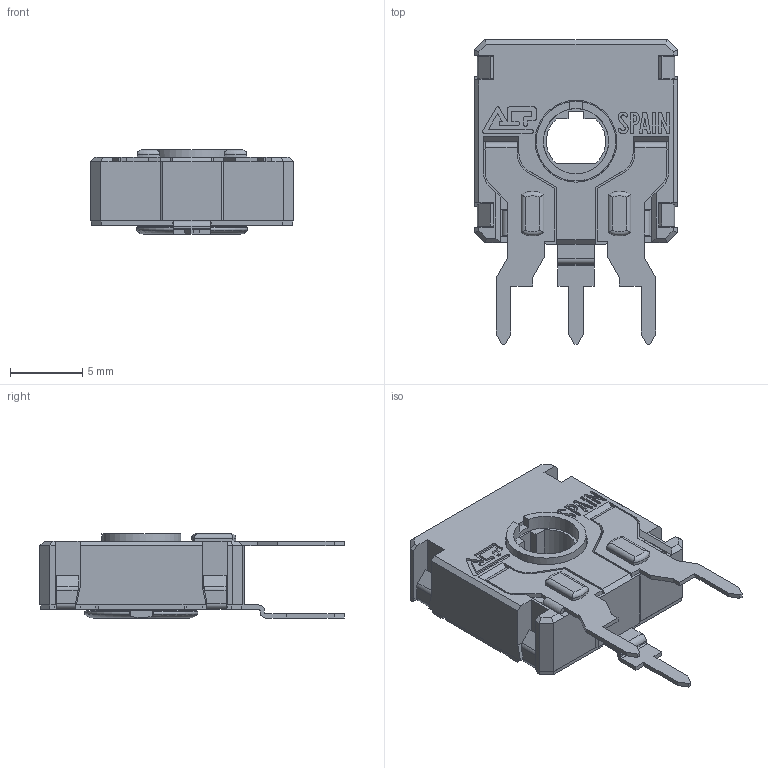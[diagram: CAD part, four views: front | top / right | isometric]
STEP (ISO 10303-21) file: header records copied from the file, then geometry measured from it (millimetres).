
FILE_DESCRIPTION(/* description */ (''),/* implementation_level */ '2;1');
FILE_NAME(/* name */ 'C:\Users\CEM\Desktop\ENVIAR\TRANSICION 3D CATALOGOS\CS14TH5.stp',/* time_stamp */ '2025-10-24T17:50:08+02:00',/* author */ ('CEM'),/* organization */ (''),/* preprocessor_version */ 'ST-DEVELOPER v17',/* originating_system */ 'Autodesk Inventor 2018',/* authorisation */ '');
FILE_SCHEMA (('AUTOMOTIVE_DESIGN { 1 0 10303 214 3 1 1 }'));
Length unit declared in the file: millimetre
Products named in the file (1): CS14TH5
Bounding box: 14 x 21 x 5.8 mm (x, y, z)
Volume: 545 mm3; surface area: 1581.3 mm2
Topology: 1 solids, 3 shells, 709 faces, 1986 edges, 1284 vertices
Faces by surface type: plane 540, cylinder 130, cone 17, torus 12, bspline 10
Full cylindrical faces by diameter (mm): 4.5 x1, 5.5 x1, 5.65 x1, 6.87 x1
Entity records: 23623 total; most frequent: CARTESIAN_POINT 4411, ORIENTED_EDGE 3972, DIRECTION 3682, EDGE_CURVE 1986, LINE 1572, VECTOR 1572, VERTEX_POINT 1284, AXIS2_PLACEMENT_3D 1055
